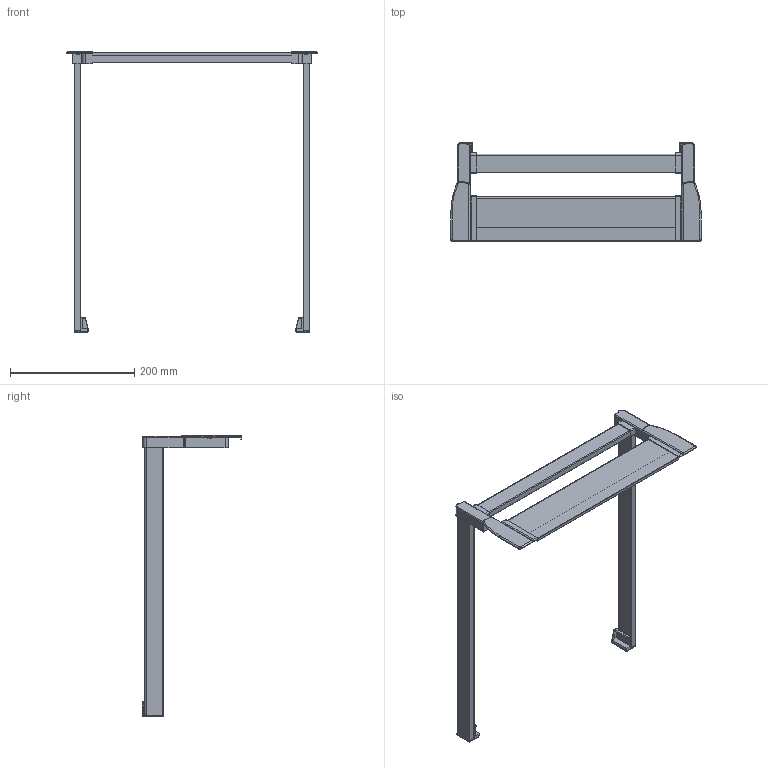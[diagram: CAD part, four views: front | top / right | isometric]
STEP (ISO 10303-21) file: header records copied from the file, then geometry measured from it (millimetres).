
FILE_DESCRIPTION (( 'STEP AP214' ), '1' );
FILE_NAME ('1_P620_NL 450_KAB 450_19er KS_.step', '2009-09-16T06:29:44', ( 'Waldinger Reinhard' ), ( 'Grass GmbH' ), 'SwSTEP 2.0', 'SolidWorks 2009', '' );
FILE_SCHEMA (( 'AUTOMOTIVE_DESIGN' ));
Length unit declared in the file: millimetre
Products named in the file (1): 1_P620_NL 450_KAB 450_19er KS_
Bounding box: 403.6 x 160.5 x 452.8 mm (x, y, z)
Volume: 774466.5 mm3; surface area: 186488.3 mm2
Topology: 1 solids, 1 shells, 220 faces, 578 edges, 364 vertices
Faces by surface type: plane 97, cylinder 91, torus 28, sphere 2, bspline 2
Entity records: 7004 total; most frequent: CARTESIAN_POINT 1345, DIRECTION 1198, ORIENTED_EDGE 1152, EDGE_CURVE 576, AXIS2_PLACEMENT_3D 433, VERTEX_POINT 364, VECTOR 332, LINE 332
